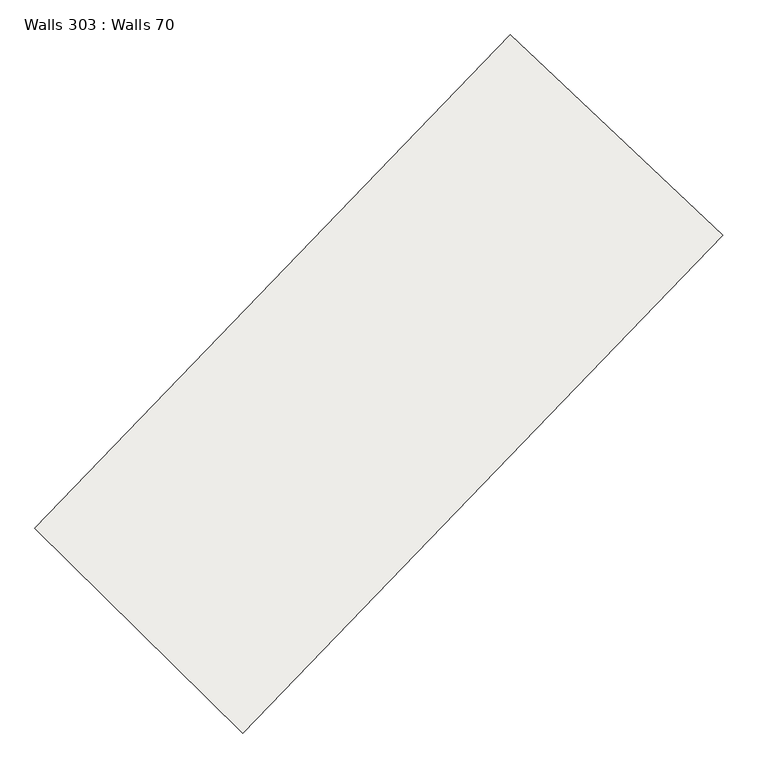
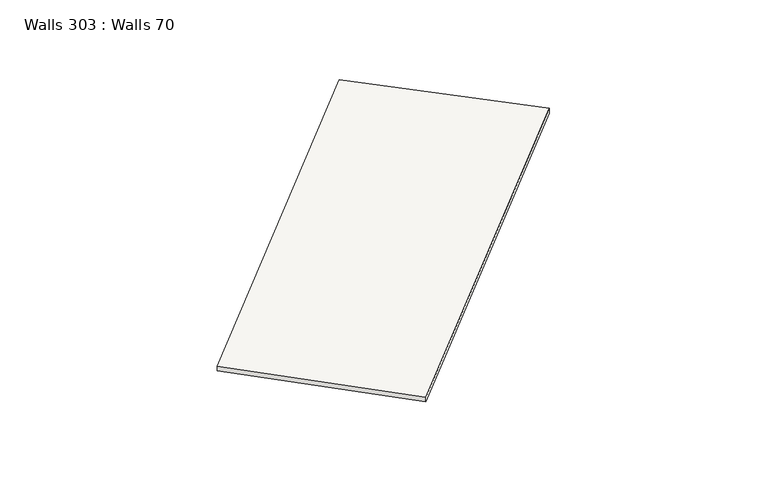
"""IFC4 building model written with IfcOpenShell, lengths in millimetres: slab geometry, Walls 303 : Walls 70."""

from ifc_helpers import new_model, si_unit, frame, origin, place, context, project, spatial, source, transform, mapped, element, save
from ifc_brep_helpers import plane_surface, spline_curve, spline_surface, advanced_brep


def walls_303_walls_70_165919b0(model_context):
    return source(origin(), model_context, "Body", "AdvancedBrep", [
        advanced_brep(
        [(39997.0080506, -113195.4845392, 638620.0), (39997.0080506, -113195.4845392, 638720.0), (42688.0373647, -115734.8469062, 638720.0), (42688.0373647, -115734.8469062, 638620.0), (33972.0028603, -119444.1894497, 638530.0), (36607.1629781, -122041.4706373, 638530.0), (36607.1629781, -122041.4706373, 638630.0), (33972.0028603, -119444.1894497, 638630.0)],
        [
            (0, 1),
            (1, 2),
            (2, 3),
            (3, 0),
            (4, 5),
            (5, 6),
            (6, 7),
            (7, 4),
            (4, 0, spline_curve(3, [(33972.0028603, -119444.1894497, 638530.0), (36002.912724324, -117383.208101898, 638560.000000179), (38011.406097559, -115300.142204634, 638589.999999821), (39997.0080506, -113195.4845392, 638620.0)], [4, 4], [0.0, 28.61251449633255])),
            (3, 5, spline_curve(3, [(42688.0373647, -115734.8469062, 638620.0), (40684.023015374, -117859.012631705, 638589.999999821), (38656.905107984, -119961.386324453, 638560.000000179), (36607.1629781, -122041.4706373, 638530.0)], [4, 4], [0.0, 28.61251449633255])),
            (6, 2, spline_curve(3, [(36607.1629781, -122041.4706373, 638630.0), (38656.905107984, -119961.386324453, 638660.000000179), (40684.023015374, -117859.012631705, 638689.999999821), (42688.0373647, -115734.8469062, 638720.0)], [4, 4], [0.0, 28.61251449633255])),
            (1, 7, spline_curve(3, [(39997.0080506, -113195.4845392, 638720.0), (38011.406097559, -115300.142204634, 638689.999999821), (36002.912724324, -117383.208101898, 638660.000000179), (33972.0028603, -119444.1894497, 638630.0)], [4, 4], [0.0, 28.61251449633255])),
        ],
        [
            plane_surface(frame((41342.5227076, -114465.1657227, 638670.0), z_axis=(0.6863141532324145, 0.7273052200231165, 0.0), x_axis=(0.0, 0.0, 1.0))),
            plane_surface(frame((35289.5829192, -120742.8300435, 638580.0), z_axis=(-0.7019694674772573, -0.7122070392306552, 0.0), x_axis=(0.0, 0.0, 1.0))),
            spline_surface(3, 3, [[(36607.1629781, -122041.4706373, 638530.0), (38656.905107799, -119961.386324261, 638560.0), (40684.023015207, -117859.012632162, 638590.0), (42688.0373647, -115734.8469062, 638620.0)], [(35728.776272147, -121175.710241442, 638530.0), (37772.240979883, -119101.993583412, 638560.0), (39793.150709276, -117006.055823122, 638590.0), (41791.027593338, -114888.39278388, 638620.0)], [(34850.389566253, -120309.949845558, 638530.0), (36887.576852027, -118242.600842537, 638560.0), (38902.278403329, -116153.099014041, 638590.0), (40894.017821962, -114041.93866152, 638620.0)], [(33972.0028603, -119444.1894497, 638530.0), (36002.912724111, -117383.208101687, 638560.0), (38011.406097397, -115300.142205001, 638590.0), (39997.0080506, -113195.4845392, 638620.0)]], [4, 4], [4, 4], [0.0, 12.13909395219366], [0.0, 28.61251449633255]),
            spline_surface(3, 3, [[(33972.0028603, -119444.1894497, 638630.0), (36002.912724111, -117383.208101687, 638660.0), (38011.406097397, -115300.142205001, 638690.0), (39997.0080506, -113195.4845392, 638720.0)], [(34850.389566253, -120309.949845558, 638630.0), (36887.576852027, -118242.600842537, 638660.0), (38902.278403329, -116153.099014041, 638690.0), (40894.017821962, -114041.93866152, 638720.0)], [(35728.776272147, -121175.710241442, 638630.0), (37772.240979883, -119101.993583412, 638660.0), (39793.150709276, -117006.055823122, 638690.0), (41791.027593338, -114888.39278388, 638720.0)], [(36607.1629781, -122041.4706373, 638630.0), (38656.905107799, -119961.386324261, 638660.0), (40684.023015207, -117859.012632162, 638690.0), (42688.0373647, -115734.8469062, 638720.0)]], [4, 4], [4, 4], [0.0, 12.139093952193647], [0.0, 28.61251449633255]),
            spline_surface(3, 3, [[(33972.0028603, -119444.1894497, 638530.0), (36002.912724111, -117383.208101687, 638560.0), (38011.406097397, -115300.142205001, 638590.0), (39997.0080506, -113195.4845392, 638620.0)], [(33972.0028603, -119444.1894497, 638563.333333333), (36002.912724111, -117383.208101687, 638593.333333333), (38011.406097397, -115300.142205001, 638623.333333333), (39997.0080506, -113195.4845392, 638653.333333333)], [(33972.0028603, -119444.1894497, 638596.666666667), (36002.912724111, -117383.208101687, 638626.666666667), (38011.406097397, -115300.142205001, 638656.666666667), (39997.0080506, -113195.4845392, 638686.666666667)], [(33972.0028603, -119444.1894497, 638630.0), (36002.912724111, -117383.208101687, 638660.0), (38011.406097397, -115300.142205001, 638690.0), (39997.0080506, -113195.4845392, 638720.0)]], [4, 4], [4, 4], [0.0, 0.3280839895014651], [0.0, 28.48050956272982]),
            spline_surface(3, 3, [[(36607.1629781, -122041.4706373, 638630.0), (38656.905107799, -119961.386324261, 638660.0), (40684.023015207, -117859.012632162, 638690.0), (42688.0373647, -115734.8469062, 638720.0)], [(36607.1629781, -122041.4706373, 638596.666666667), (38656.905107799, -119961.386324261, 638626.666666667), (40684.023015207, -117859.012632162, 638656.666666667), (42688.0373647, -115734.8469062, 638686.666666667)], [(36607.1629781, -122041.4706373, 638563.333333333), (38656.905107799, -119961.386324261, 638593.333333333), (40684.023015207, -117859.012632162, 638623.333333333), (42688.0373647, -115734.8469062, 638653.333333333)], [(36607.1629781, -122041.4706373, 638530.0), (38656.905107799, -119961.386324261, 638560.0), (40684.023015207, -117859.012632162, 638590.0), (42688.0373647, -115734.8469062, 638620.0)]], [4, 4], [4, 4], [0.0, 0.3280839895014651], [0.0, 28.744519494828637]),
        ],
        [
            (0, [[1, 2, 3, 4]]),
            (1, [[5, 6, 7, 8]]),
            (2, [[-5, 9, -4, 10]]),
            (3, [[-7, 11, -2, 12]]),
            (4, [[-8, -12, -1, -9]]),
            (5, [[-6, -10, -3, -11]]),
        ],
    ),
    ])


if __name__ == "__main__":
    model = new_model("IFC4")
    model_context = context("Model", 3, world=origin())
    ifc_project = project(units=[si_unit("LENGTHUNIT", "METRE", prefix="MILLI")], contexts=[model_context])
    site = spatial("IfcSite", under=ifc_project)
    building = spatial("IfcBuilding", under=site)
    placement = place(None, origin())
    walls_303_walls_70_shape = walls_303_walls_70_165919b0(model_context)
    element("IfcSlab", 1, ObjectType="Walls 303 : Walls 70", at=placement, inside=building, context=model_context, shape_type="MappedRepresentation", body=[
        mapped(walls_303_walls_70_shape, transform((0.0, 0.0, 0.0), x_axis=(1.0, 0.0, 0.0), y_axis=(0.0, 1.0, 0.0), z_axis=(0.0, 0.0, 1.0))),
    ])
    save(model, "model.ifc")
